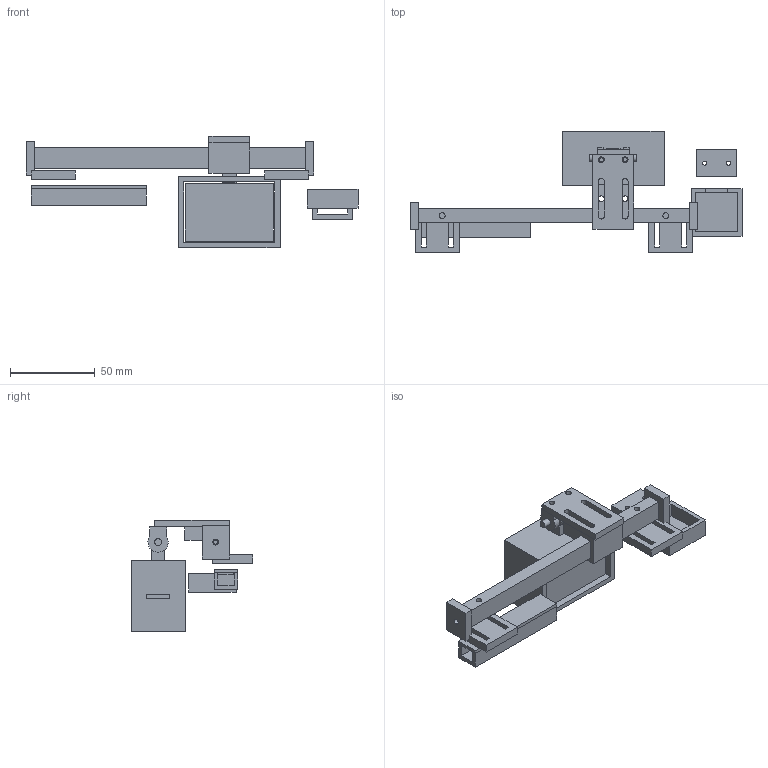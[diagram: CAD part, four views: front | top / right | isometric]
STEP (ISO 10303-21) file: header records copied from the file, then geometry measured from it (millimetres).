
FILE_DESCRIPTION(('Open CASCADE Model'),'2;1');
FILE_NAME('Open CASCADE Shape Model','2026-09-20T05:39:32',('Author'),( 'Open CASCADE'),'Open CASCADE STEP processor 7.9','Open CASCADE 7.9' ,'Unknown');
FILE_SCHEMA(('AUTOMOTIVE_DESIGN { 1 0 10303 214 1 1 1 1 }'));
Length unit declared in the file: millimetre
Products named in the file (16): AR00_PACKAGING_WITH_REFERENCES; AR01_BROW_DATUM_RAIL; AR02_LATERAL_CARRIAGE; AR03_EYE_RELIEF_SLIDE; AR04_PITCH_SWING_CLEVIS; AR05_OPTIC_CARRIER; AR07_END_STOP_L; AR07_END_STOP_R; AR08_TEMPLE_SADDLE_L; AR08_TEMPLE_SADDLE_R; AR09_HELMET_NODE_TRAY; AR10_AIR_SENSOR_SHROUD; AR11_OPEN_WIRING_CHANNEL; AR12_CHANNEL_LID; REF_PIVOT_M4; REF_ENGINE_KEEP_OUT
Assembly tree (15 placements, depth 2):
  AR00_PACKAGING_WITH_REFERENCES
    AR01_BROW_DATUM_RAIL
    AR02_LATERAL_CARRIAGE
    AR03_EYE_RELIEF_SLIDE
    AR04_PITCH_SWING_CLEVIS
    AR05_OPTIC_CARRIER
    AR07_END_STOP_L
    AR07_END_STOP_R
    AR08_TEMPLE_SADDLE_L
    AR08_TEMPLE_SADDLE_R
    AR09_HELMET_NODE_TRAY
    AR10_AIR_SENSOR_SHROUD
    AR11_OPEN_WIRING_CHANNEL
    AR12_CHANNEL_LID
    REF_PIVOT_M4
    REF_ENGINE_KEEP_OUT
Bounding box: 196 x 72 x 66 mm (x, y, z)
Volume: 112733.8 mm3; surface area: 56396.5 mm2
Topology: 15 solids, 15 shells, 206 faces, 513 edges, 342 vertices
Faces by surface type: plane 178, cylinder 28
Full cylindrical faces by diameter (mm): 2.4 x4, 2.5 x5, 3.4 x8, 4 x1, 4.2 x3
Entity records: 13011 total; most frequent: CARTESIAN_POINT 2427, DIRECTION 1779, LINE 1167, VECTOR 1167, ORIENTED_EDGE 1026, PCURVE 1026, DEFINITIONAL_REPRESENTATION 1026, EDGE_CURVE 513
